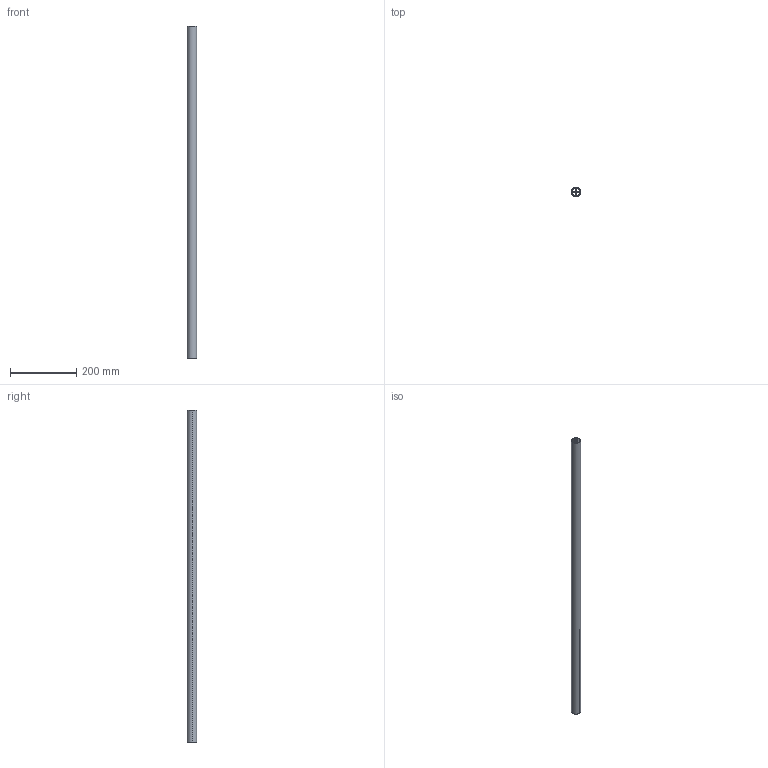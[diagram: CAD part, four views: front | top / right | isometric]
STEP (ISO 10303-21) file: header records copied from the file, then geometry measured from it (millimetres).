
FILE_DESCRIPTION (( 'STEP AP214' ), '1' );
FILE_NAME ('TFS-D28-1.STEP', '2025-02-27T12:15:53', ( '' ), ( '' ), 'SwSTEP 2.0', 'SolidWorks 2023', '' );
FILE_SCHEMA (( 'AUTOMOTIVE_DESIGN' ));
Length unit declared in the file: millimetre
Products named in the file (1): TFS-D28-1
Bounding box: 28 x 28 x 1000 mm (x, y, z)
Volume: 250738.1 mm3; surface area: 263214.5 mm2
Topology: 1 solids, 1 shells, 36 faces, 102 edges, 68 vertices
Faces by surface type: plane 26, cylinder 10
Entity records: 1209 total; most frequent: CARTESIAN_POINT 207, ORIENTED_EDGE 204, DIRECTION 196, EDGE_CURVE 102, LINE 82, VECTOR 82, VERTEX_POINT 68, AXIS2_PLACEMENT_3D 57
